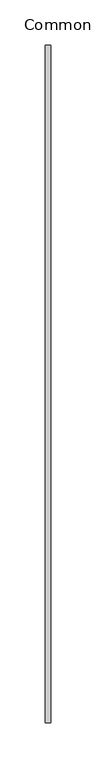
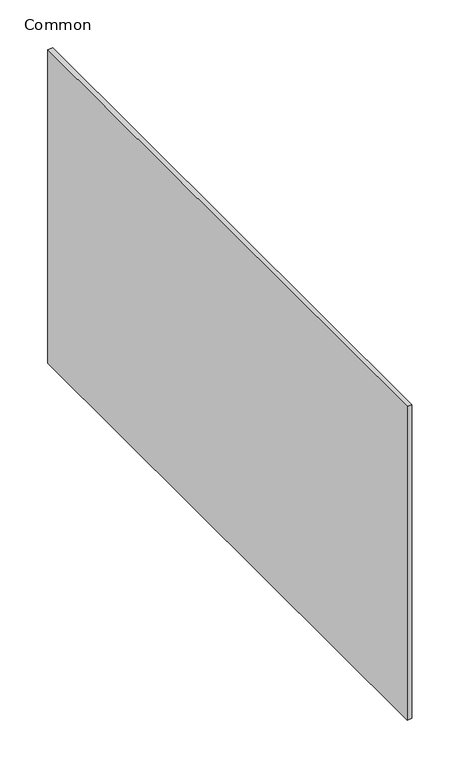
"""IFC4 building model written with IfcOpenShell, lengths in millimetres: duct fitting geometry, 071_角型ユニオン : Common."""

import ifcopenshell
import ifcopenshell.guid

model = None  # the IFC model being written
_history = None  # IfcOwnerHistory: only IFC2X3 demands one
_inside = {}  # id of a spatial element -> (the spatial element, [elements in it])
_under = {}  # id of a project, library or spatial element -> (it, [spatial elements below it])
_declared = {}  # id of a project -> (the project, [libraries it declares])
_typed = {}  # id of a type object -> (the type object, [elements of that type])
_made_of = {}  # id of a material, layer set ... -> (it, [elements and type objects made of it])


def new_model(schema):
    """Start an empty IFC model of exactly this schema.

    Asked for "IFC4X3", IfcOpenShell would pick the latest addendum, in which some entities
    have other attributes; the version numbers below select the first issue.
    IFC2X3 requires an IfcOwnerHistory on every rooted entity: one is made here for all.
    """
    global model, _history
    if schema == "IFC4X3":
        model = ifcopenshell.file(schema_version=(4, 3, 0, 0))
    else:
        model = ifcopenshell.file(schema=schema)
    _inside.clear()
    _under.clear()
    _declared.clear()
    _typed.clear()
    _made_of.clear()
    _history = None
    if model.schema == "IFC2X3":
        org = make("IfcOrganization", Name="unknown")
        user = make(
            "IfcPersonAndOrganization",
            ThePerson=make("IfcPerson", FamilyName="unknown"),
            TheOrganization=org,
        )
        app = make(
            "IfcApplication",
            ApplicationDeveloper=org,
            Version="unknown",
            ApplicationFullName="unknown",
            ApplicationIdentifier="unknown",
        )
        _history = make(
            "IfcOwnerHistory",
            OwningUser=user,
            OwningApplication=app,
            ChangeAction="ADDED",
            CreationDate=0,
        )
    return model


def make(cls, **values):
    """One entity of the class cls with the attributes given. An attribute that is None is left unset."""
    return model.create_entity(
        cls, **{name: value for name, value in values.items() if value is not None}
    )


def rooted(cls, **values):
    """An entity with a GlobalId (a new one), such as an element, a storey or a relation."""
    return make(cls, GlobalId=ifcopenshell.guid.new(), OwnerHistory=_history, **values)


def si_unit(unit_type, name, prefix=None):
    """IfcSIUnit, for example si_unit("LENGTHUNIT", "METRE", prefix="MILLI")."""
    return make("IfcSIUnit", UnitType=unit_type, Prefix=prefix, Name=name)


def assignment(units):
    """IfcUnitAssignment: the units of a project."""
    return None if units is None else make("IfcUnitAssignment", Units=units)


def point(xyz):
    """IfcCartesianPoint."""
    return None if xyz is None else make("IfcCartesianPoint", Coordinates=xyz)


def direction(xyz):
    """IfcDirection."""
    return None if xyz is None else make("IfcDirection", DirectionRatios=xyz)


def frame(location, z_axis=None, x_axis=None):
    """IfcAxis2Placement3D, a coordinate frame: its origin and axes. An axis left out is left unset."""
    return make(
        "IfcAxis2Placement3D",
        Location=point(location),
        Axis=direction(z_axis),
        RefDirection=direction(x_axis),
    )


def origin():
    """The frame at (0, 0, 0) with its axes left unset."""
    return frame((0.0, 0.0, 0.0))


def place(relative_to, where):
    """IfcLocalPlacement: puts the frame where relative to a parent placement (None: the world)."""
    return make(
        "IfcLocalPlacement", PlacementRelTo=relative_to, RelativePlacement=where
    )


def context(
    kind, dimensions, precision=None, world=None, true_north=None, identifier=None
):
    """IfcGeometricRepresentationContext, for example the 3D "Model" context."""
    return make(
        "IfcGeometricRepresentationContext",
        ContextIdentifier=identifier,
        ContextType=kind,
        CoordinateSpaceDimension=dimensions,
        Precision=precision,
        WorldCoordinateSystem=world,
        TrueNorth=true_north,
    )


def project(units=None, contexts=None):
    """IfcProject with its units and contexts."""
    return rooted(
        "IfcProject",
        Name="project",
        RepresentationContexts=contexts,
        UnitsInContext=assignment(units),
    )


def spatial(cls, under=None, at=None, **own):
    """A site, building, storey or space (cls), placed at a placement, below another one or the project."""
    s = rooted(cls, ObjectPlacement=at, **own)
    if under is not None:
        _under.setdefault(under.id(), (under, []))[1].append(s)
    return s


def polyline(points):
    """IfcPolyline through the points."""
    return make("IfcPolyline", Points=[point(p) for p in points])


def outline(outer, holes=None, kind="AREA"):
    """IfcArbitraryClosedProfileDef: a profile drawn as a closed curve; with holes, ...WithVoids."""
    if holes is None:
        return make("IfcArbitraryClosedProfileDef", ProfileType=kind, OuterCurve=outer)
    return make(
        "IfcArbitraryProfileDefWithVoids",
        ProfileType=kind,
        OuterCurve=outer,
        InnerCurves=holes,
    )


def extrude(swept, where, along, depth):
    """IfcExtrudedAreaSolid: the profile swept, set in the frame where, extruded along a direction by depth."""
    return make(
        "IfcExtrudedAreaSolid",
        SweptArea=swept,
        Position=where,
        ExtrudedDirection=direction(along),
        Depth=depth,
    )


def shape(context_of_items, identifier, shape_type, items):
    """IfcShapeRepresentation: the items that make up one representation, for example the "Body"."""
    return make(
        "IfcShapeRepresentation",
        ContextOfItems=context_of_items,
        RepresentationIdentifier=identifier,
        RepresentationType=shape_type,
        Items=items,
    )


def source(mapping_origin, context_of_items, identifier, shape_type, items):
    """IfcRepresentationMap: a shape defined once, which mapped items show again and again."""
    return make(
        "IfcRepresentationMap",
        MappingOrigin=mapping_origin,
        MappedRepresentation=shape(context_of_items, identifier, shape_type, items),
    )


def transform(
    local_origin,
    x_axis=None,
    y_axis=None,
    z_axis=None,
    scale=None,
    scale2=None,
    scale3=None,
    uniform=True,
):
    """IfcCartesianTransformationOperator3D, or its non-uniform kind. x_axis, y_axis, z_axis: its Axis1, 2, 3."""
    if uniform:
        return make(
            "IfcCartesianTransformationOperator3D",
            Axis1=direction(x_axis),
            Axis2=direction(y_axis),
            LocalOrigin=point(local_origin),
            Scale=scale,
            Axis3=direction(z_axis),
        )
    return make(
        "IfcCartesianTransformationOperator3DnonUniform",
        Axis1=direction(x_axis),
        Axis2=direction(y_axis),
        LocalOrigin=point(local_origin),
        Scale=scale,
        Axis3=direction(z_axis),
        Scale2=scale2,
        Scale3=scale3,
    )


def mapped(mapping_source, mapping_target):
    """IfcMappedItem: shows the shape of a source again, moved by a transform."""
    return make(
        "IfcMappedItem", MappingSource=mapping_source, MappingTarget=mapping_target
    )


def made_of(thing, what):
    """Note that an element or type object is made of a material, layer set ...; save() writes the relation."""
    if what is not None:
        _made_of.setdefault(what.id(), (what, []))[1].append(thing)
    return thing


def element(
    cls,
    number,
    at=None,
    inside=None,
    cuts=None,
    type_object=None,
    material=None,
    context=None,
    identifier="Body",
    shape_type=None,
    held_by="IfcProductDefinitionShape",
    body=None,
    shapes=None,
    **own,
):
    """One element of the class cls, such as IfcWall. Its Tag is "e" and its number.

    at: its placement. inside: the storey or other place that contains it. cuts: it is an
    opening in that element (IfcRelVoidsElement). A single representation is given by context,
    identifier, shape_type and body (its items); several are given by shapes. held_by: the class
    of the entity that holds the representations. save() writes the other relations.
    """
    e = rooted(cls, Tag="e%d" % number, ObjectPlacement=at, **own)
    if body is not None:
        shapes = [shape(context, identifier, shape_type, body)]
    if shapes is not None:
        e.Representation = make(held_by, Representations=shapes)
    if inside is not None:
        _inside.setdefault(inside.id(), (inside, []))[1].append(e)
    if cuts is not None:
        rooted(
            "IfcRelVoidsElement", RelatingBuildingElement=cuts, RelatedOpeningElement=e
        )
    if type_object is not None:
        _typed.setdefault(type_object.id(), (type_object, []))[1].append(e)
    return made_of(e, material)


def aggregate(whole, parts):
    """IfcRelAggregates: a whole, such as a stair, and the parts it consists of."""
    return rooted("IfcRelAggregates", RelatingObject=whole, RelatedObjects=parts)


def save(model, path):
    """Write the relations noted so far, then the file.

    IfcRelAggregates (storeys below a building ...), IfcRelContainedInSpatialStructure (elements
    in a storey), IfcRelDefinesByType, IfcRelAssociatesMaterial and IfcRelDeclares: one each for
    every whole, place, type object, material and project.
    """
    for whole, parts in _under.values():
        aggregate(whole, parts)
    for where, things in _inside.values():
        rooted(
            "IfcRelContainedInSpatialStructure",
            RelatedElements=things,
            RelatingStructure=where,
        )
    for kind, things in _typed.values():
        rooted("IfcRelDefinesByType", RelatedObjects=things, RelatingType=kind)
    for what, things in _made_of.values():
        rooted("IfcRelAssociatesMaterial", RelatedObjects=things, RelatingMaterial=what)
    for by, libraries in _declared.values():
        rooted("IfcRelDeclares", RelatingContext=by, RelatedDefinitions=libraries)
    model.write(path)


def common_161684ae(model_context):
    return source(origin(), model_context, "Body", "SweptSolid", [
        extrude(outline(polyline([(3.0, 375.0), (3.0, -375.0), (-3.0, -375.0), (-3.0, 375.0), (3.0, 375.0)])), frame((0.0, 0.0, -200.0), z_axis=(0.0, 0.0, 1.0), x_axis=(1.0, 0.0, 0.0)), (0.0, 0.0, 1.0), 400.0),
    ])


if __name__ == "__main__":
    model = new_model("IFC4")
    model_context = context("Model", 3, world=origin())
    ifc_project = project(units=[si_unit("LENGTHUNIT", "METRE", prefix="MILLI")], contexts=[model_context])
    site = spatial("IfcSite", under=ifc_project)
    building = spatial("IfcBuilding", under=site)
    placement = place(None, origin())
    common_shape = common_161684ae(model_context)
    element("IfcDuctFitting", 1, ObjectType="071_角型ユニオン : Common", at=placement, inside=building, context=model_context, shape_type="MappedRepresentation", body=[
        mapped(common_shape, transform((0.0, 0.0, 0.0), x_axis=(1.0, 0.0, 0.0), y_axis=(0.0, 1.0, 0.0), z_axis=(0.0, 0.0, 1.0))),
    ])
    save(model, "model.ifc")
